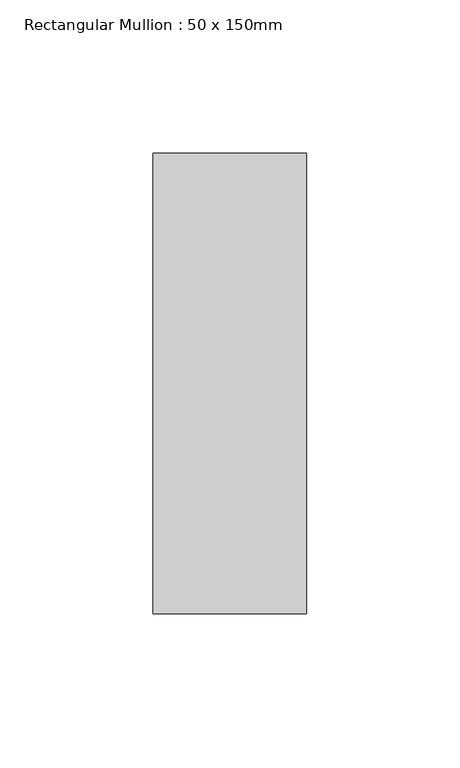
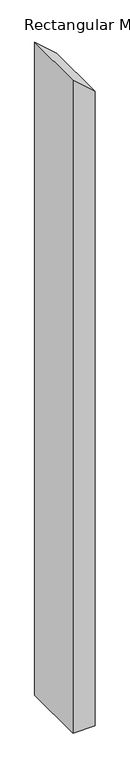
"""IFC4 building model written with IfcOpenShell, lengths in millimetres: member geometry, Rectangular Mullion : 50 x 150mm."""

from ifc_helpers import new_model, si_unit, frame, origin, place, context, project, spatial, polyline, outline, extrude, source, transform, mapped, element, save


def rectangular_mullion_50_x_150mm_fac8693a(model_context):
    return source(origin(), model_context, "Body", "SweptSolid", [
        extrude(outline(polyline([(-88.415239, 25.0), (-44.5773716, -25.0), (-1607.7636865, -25.0), (-1607.7636865, 25.0), (-88.415239, 25.0)])), frame((0.0, -75.0, 0.0), z_axis=(0.0, 1.0, 0.0), x_axis=(0.0, 0.0, 1.0)), (0.0, 0.0, 1.0), 150.0),
    ])


if __name__ == "__main__":
    model = new_model("IFC4")
    model_context = context("Model", 3, world=origin())
    ifc_project = project(units=[si_unit("LENGTHUNIT", "METRE", prefix="MILLI")], contexts=[model_context])
    site = spatial("IfcSite", under=ifc_project)
    building = spatial("IfcBuilding", under=site)
    placement = place(None, origin())
    rectangular_mullion_50_x_150mm_shape = rectangular_mullion_50_x_150mm_fac8693a(model_context)
    element("IfcMember", 1, ObjectType="Rectangular Mullion : 50 x 150mm", at=placement, inside=building, context=model_context, shape_type="MappedRepresentation", body=[
        mapped(rectangular_mullion_50_x_150mm_shape, transform((0.0, 0.0, 0.0), x_axis=(1.0, 0.0, 0.0), y_axis=(0.0, 1.0, 0.0), z_axis=(0.0, 0.0, 1.0))),
    ])
    save(model, "model.ifc")
